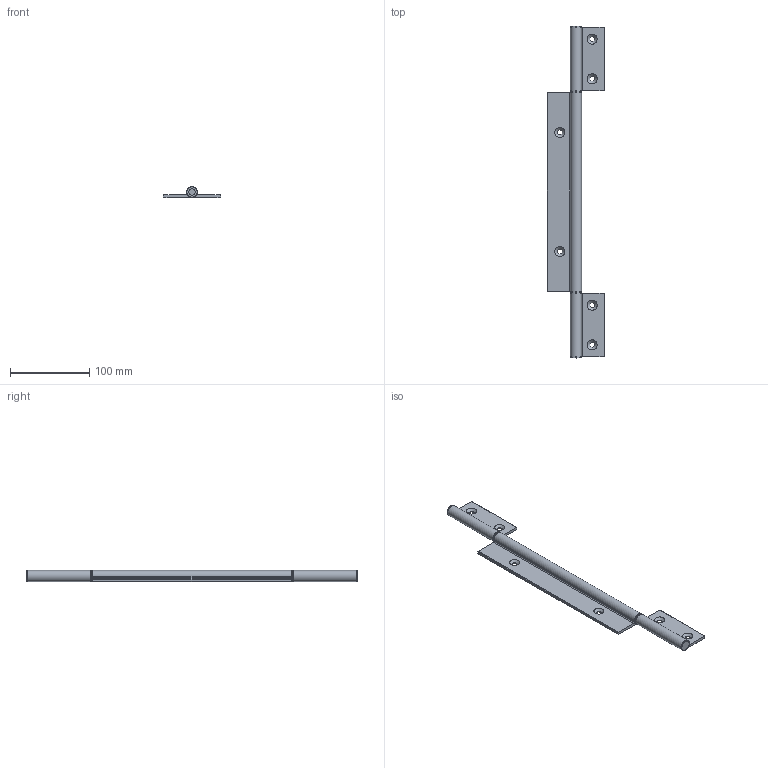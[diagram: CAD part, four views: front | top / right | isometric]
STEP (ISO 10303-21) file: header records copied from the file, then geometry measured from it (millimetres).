
FILE_DESCRIPTION( ( 'STEP AP203' ), '1' );
FILE_NAME( 'C:/Temp/Ganter_Step_05_03_2020/data/3_3/gn2295/Hinge GN 2295-72-415-A-C-EL.stp', '2020-03-12T12:07:53', ( 'License CC BY-ND 4.0' ), ( 'CADENAS' ), ' ', 'PARTsolutions', ' ' );
FILE_SCHEMA( ( 'CONFIG_CONTROL_DESIGN' ) );
Length unit declared in the file: millimetre
Products named in the file (4): Hinge GN 2295-72-415-A-C-EL; _Hinge GN 2295-72-415-A-C-EL-1; _Hinge GN 2295-72-415-A-C-EL-2; _Hinge GN 2295-72-415-A-C-EL-3
Assembly tree (3 placements, depth 2):
  Hinge GN 2295-72-415-A-C-EL
    _Hinge GN 2295-72-415-A-C-EL-1
    _Hinge GN 2295-72-415-A-C-EL-2
    _Hinge GN 2295-72-415-A-C-EL-3
Bounding box: 72 x 418 x 14 mm (x, y, z)
Volume: 108699.8 mm3; surface area: 53287.9 mm2
Topology: 3 solids, 3 shells, 87 faces, 224 edges, 147 vertices
Faces by surface type: plane 49, cylinder 30, cone 6, torus 2
Full cylindrical faces by diameter (mm): 6 x2, 6.6 x6, 8 x4, 13.9 x6
Entity records: 2656 total; most frequent: DIRECTION 471, CARTESIAN_POINT 422, ORIENTED_EDGE 382, EDGE_CURVE 191, AXIS2_PLACEMENT_3D 189, VERTEX_POINT 140, EDGE_LOOP 133, FACE_OUTER_BOUND 107
